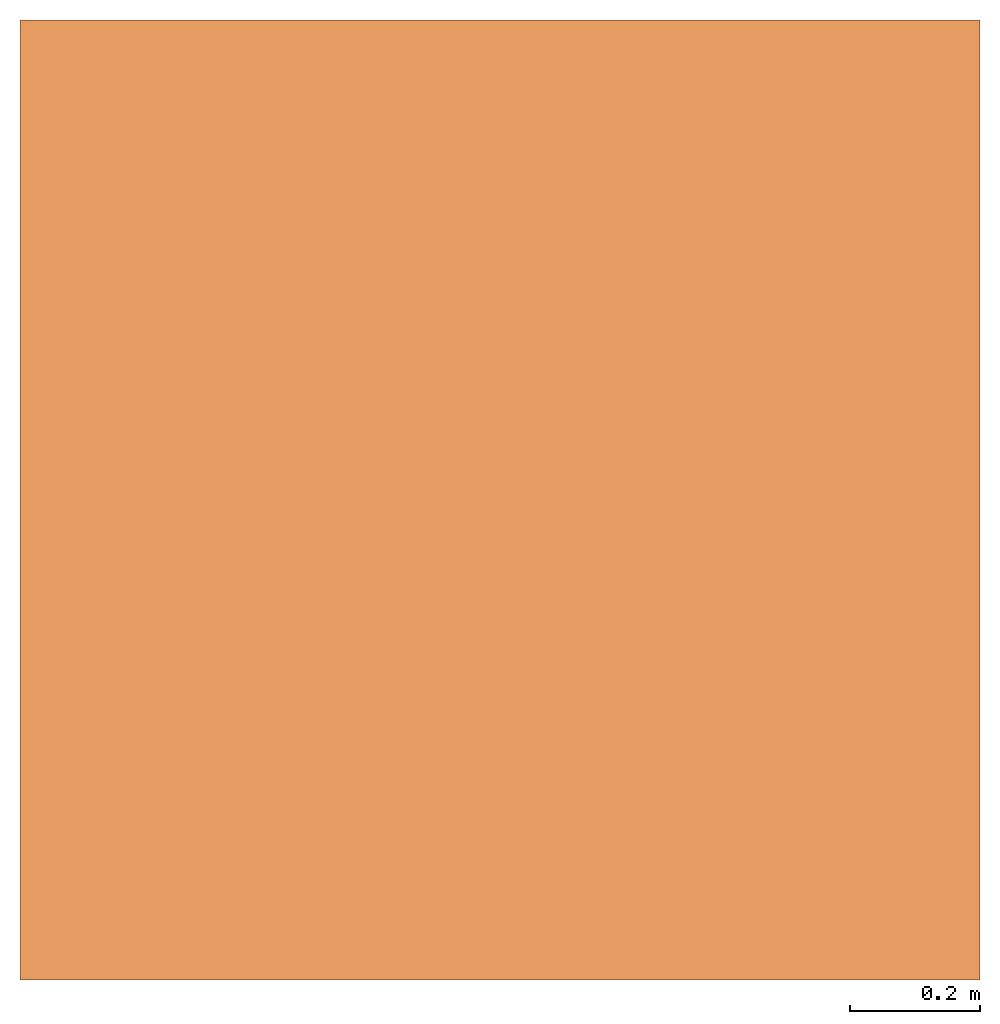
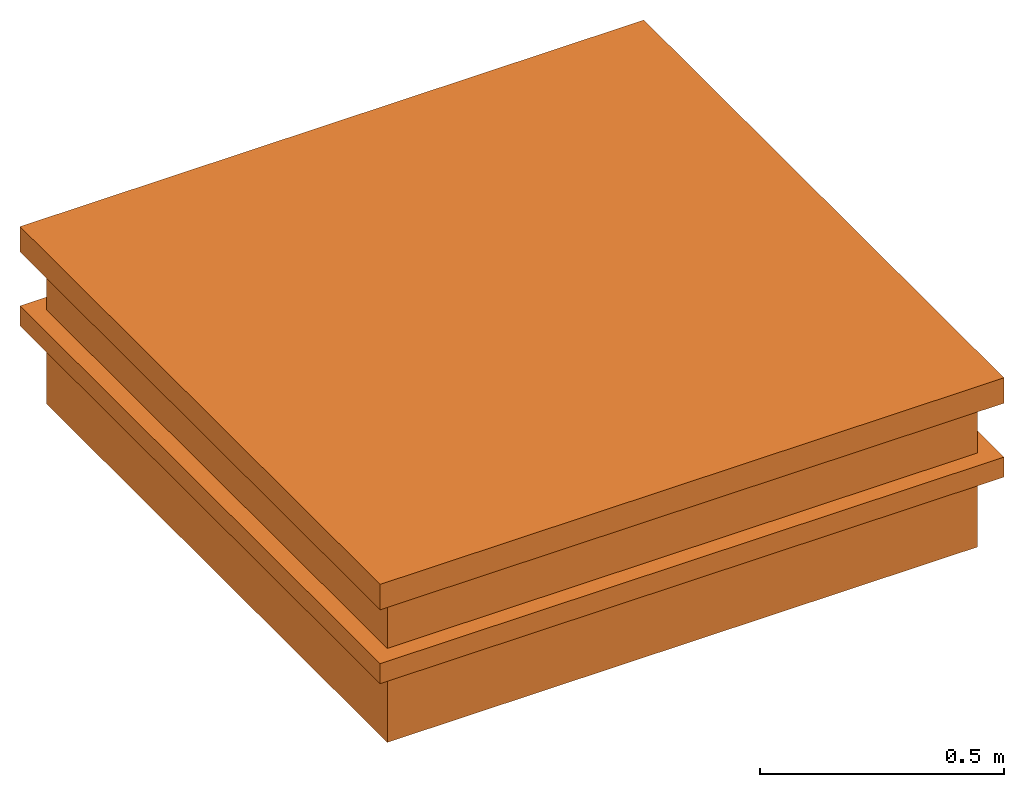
# One storey: 1 proxy.
"""IFC2X3 building model written with IfcOpenShell, lengths in metres."""

from ifc_helpers import new_model, entity, si_unit, converted_unit, derived_unit, direction, frame, origin, place, context, subcontext, project, spatial, faceted_brep, source, transform, mapped, material, material_list, type_object, type_shapes, element, save


model = new_model("IFC2X3")

# Units and contexts
model_context = context("Model", 3, precision=1e-05, world=origin(), true_north=direction((6.12303176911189e-17, 1.0)))
body_context = subcontext(model_context, "Body", "Model", "MODEL_VIEW")
ifc_project = project(units=[si_unit("LENGTHUNIT", "METRE"), si_unit("AREAUNIT", "SQUARE_METRE"), si_unit("VOLUMEUNIT", "CUBIC_METRE"), converted_unit("PLANEANGLEUNIT", "DEGREE", entity("IfcRatioMeasure", 0.0174532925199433), si_unit("PLANEANGLEUNIT", "RADIAN"), dimensions=[0, 0, 0, 0, 0, 0, 0]), si_unit("MASSUNIT", "GRAM", prefix="KILO"), derived_unit("MASSDENSITYUNIT", [(si_unit("MASSUNIT", "GRAM", prefix="KILO"), 1), (si_unit("LENGTHUNIT", "METRE"), -3)]), derived_unit("MOMENTOFINERTIAUNIT", [(si_unit("LENGTHUNIT", "METRE"), 4)]), si_unit("TIMEUNIT", "SECOND"), si_unit("FREQUENCYUNIT", "HERTZ"), si_unit("THERMODYNAMICTEMPERATUREUNIT", "DEGREE_CELSIUS"), derived_unit("THERMALTRANSMITTANCEUNIT", [(si_unit("MASSUNIT", "GRAM", prefix="KILO"), 1), (si_unit("THERMODYNAMICTEMPERATUREUNIT", "KELVIN"), -1), (si_unit("TIMEUNIT", "SECOND"), -3)]), derived_unit("VOLUMETRICFLOWRATEUNIT", [(si_unit("LENGTHUNIT", "METRE"), 3), (si_unit("TIMEUNIT", "SECOND"), -1)]), si_unit("ELECTRICCURRENTUNIT", "AMPERE"), si_unit("ELECTRICVOLTAGEUNIT", "VOLT"), si_unit("POWERUNIT", "WATT"), si_unit("FORCEUNIT", "NEWTON", prefix="KILO"), si_unit("ILLUMINANCEUNIT", "LUX"), si_unit("LUMINOUSFLUXUNIT", "LUMEN"), si_unit("LUMINOUSINTENSITYUNIT", "CANDELA"), derived_unit("USERDEFINED", [(si_unit("MASSUNIT", "GRAM", prefix="KILO"), -1), (si_unit("LENGTHUNIT", "METRE"), -2), (si_unit("TIMEUNIT", "SECOND"), 3), (si_unit("LUMINOUSFLUXUNIT", "LUMEN"), 1)]), derived_unit("LINEARVELOCITYUNIT", [(si_unit("LENGTHUNIT", "METRE"), 1), (si_unit("TIMEUNIT", "SECOND"), -1)]), si_unit("PRESSUREUNIT", "PASCAL"), derived_unit("USERDEFINED", [(si_unit("LENGTHUNIT", "METRE"), -2), (si_unit("MASSUNIT", "GRAM", prefix="KILO"), 1), (si_unit("TIMEUNIT", "SECOND"), -2)]), derived_unit("LINEARFORCEUNIT", [(si_unit("MASSUNIT", "GRAM", prefix="KILO"), 1), (si_unit("LENGTHUNIT", "METRE"), 1), (si_unit("TIMEUNIT", "SECOND"), -2), (si_unit("LENGTHUNIT", "METRE"), -1)]), derived_unit("PLANARFORCEUNIT", [(si_unit("MASSUNIT", "GRAM", prefix="KILO"), 1), (si_unit("LENGTHUNIT", "METRE"), 1), (si_unit("TIMEUNIT", "SECOND"), -2), (si_unit("LENGTHUNIT", "METRE"), -2)])], contexts=[model_context])

# Site, building, storey
site_placement = place(None, origin())
site = spatial("IfcSite", under=ifc_project, at=site_placement, Name="Default", CompositionType="ELEMENT")
building_placement = place(site_placement, origin())
building = spatial("IfcBuilding", under=site, at=building_placement, CompositionType="ELEMENT")
storey_placement = place(building_placement, frame((0.0, 0.0, 14.9533082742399)))
storey = spatial("IfcBuildingStorey", under=building, at=storey_placement, Name="Niveau Toiture", CompositionType="ELEMENT", Elevation=14.9533082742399)

# Proxy
ifc_material_1 = material(Name="Verre")
ifc_material_2 = material(Name="Métal - Bronze, Léger brossage")
ifc_material_list = material_list([ifc_material_1, ifc_material_2])
building_element_proxy_type = type_object("IfcBuildingElementProxyType", Name="Skydome 4:Skydome 110x120", PredefinedType="NOTDEFINED", material=ifc_material_list)
shared_shape = source(origin(), body_context, "Body", "Brep", [
    faceted_brep([(0.737700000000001, 0.73769999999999, 0.37), (0.737700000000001, 0.73769999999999, 0.433499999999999), (0.737700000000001, -0.737700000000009, 0.433499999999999), (0.737700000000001, -0.737700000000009, 0.37), (0.699599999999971, 0.699599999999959, 0.433499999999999), (0.699599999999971, 0.699599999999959, 0.408099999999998), (0.699599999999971, -0.699599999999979, 0.408099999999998), (0.699599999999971, -0.699599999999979, 0.433499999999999), (-0.737699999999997, -0.737700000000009, 0.433499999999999), (-0.737699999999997, -0.737700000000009, 0.37), (-0.699599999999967, -0.699599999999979, 0.408099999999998), (-0.699599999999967, -0.699599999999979, 0.433499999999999), (-0.737699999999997, 0.73769999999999, 0.433499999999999), (-0.737699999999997, 0.73769999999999, 0.37), (-0.699599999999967, 0.699599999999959, 0.408099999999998), (-0.699599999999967, 0.699599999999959, 0.433499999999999), (0.697700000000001, -0.697700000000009, 0.37), (0.697700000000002, 0.697699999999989, 0.37), (-0.697699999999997, 0.69769999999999, 0.37), (-0.697699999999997, -0.697700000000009, 0.37), (0.697700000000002, 0.697699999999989, 0.0), (0.697700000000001, -0.697700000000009, 0.0), (-0.697699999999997, -0.697700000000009, 0.0), (-0.697699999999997, 0.69769999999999, 0.0), (0.657700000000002, 0.65769999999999, 0.0), (-0.657699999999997, 0.65769999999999, 0.0), (-0.657699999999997, -0.657700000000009, 0.0), (0.657700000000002, -0.657700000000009, 0.0), (0.697700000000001, -0.697700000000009, 0.235234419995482), (0.697700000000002, 0.697699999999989, 0.235234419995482), (-0.697699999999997, -0.697700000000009, 0.235234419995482), (-0.697699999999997, 0.69769999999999, 0.235234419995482), (0.657700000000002, -0.657700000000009, 0.408099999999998), (0.657700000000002, 0.65769999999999, 0.408099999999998), (-0.657699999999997, -0.657700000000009, 0.408099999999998), (-0.657699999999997, 0.65769999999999, 0.408099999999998), (0.737700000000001, 0.73769999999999, 0.235234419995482), (-0.737699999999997, 0.73769999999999, 0.235234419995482), (-0.737699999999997, -0.737700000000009, 0.235234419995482), (0.737700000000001, -0.737700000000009, 0.235234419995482), (0.737700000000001, 0.73769999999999, 0.185234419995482), (0.737700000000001, -0.737700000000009, 0.185234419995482), (-0.737699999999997, -0.737700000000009, 0.185234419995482), (-0.737699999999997, 0.73769999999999, 0.185234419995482), (0.697700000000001, -0.697700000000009, 0.185234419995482), (0.697700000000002, 0.697699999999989, 0.185234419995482), (-0.697699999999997, 0.69769999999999, 0.185234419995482), (-0.697699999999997, -0.697700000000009, 0.185234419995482)], [[[0, 1, 2, 3]], [[4, 5, 6, 7]], [[3, 2, 8, 9]], [[7, 6, 10, 11]], [[9, 8, 12, 13]], [[11, 10, 14, 15]], [[2, 1, 12, 8], [4, 7, 11, 15]], [[1, 0, 13, 12]], [[0, 3, 9, 13], [16, 17, 18, 19]], [[5, 4, 15, 14]], [[20, 21, 22, 23], [24, 25, 26, 27]], [[16, 28, 29, 17]], [[28, 16, 19, 30]], [[30, 19, 18, 31]], [[31, 18, 17, 29]], [[24, 27, 32, 33]], [[32, 27, 26, 34]], [[34, 26, 25, 35]], [[35, 25, 24, 33]], [[36, 37, 38, 39], [29, 28, 30, 31]], [[40, 41, 42, 43], [44, 45, 46, 47]], [[36, 39, 41, 40]], [[39, 38, 42, 41]], [[38, 37, 43, 42]], [[37, 36, 40, 43]], [[33, 32, 34, 35], [6, 5, 14, 10]], [[20, 23, 46, 45]], [[23, 22, 47, 46]], [[22, 21, 44, 47]], [[21, 20, 45, 44]]], outer=[[True], [True], [True], [True], [True], [True], [True, False], [True], [True, False], [True], [True, False], [True], [True], [True], [True], [True], [True], [True], [True], [True, False], [True, False], [True], [True], [True], [True], [False, True], [True], [True], [True], [True]]),
    faceted_brep([(0.699599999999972, 0.699599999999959, 0.408099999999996), (0.699599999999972, -0.699599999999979, 0.408099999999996), (-0.699599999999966, -0.699599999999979, 0.4081), (-0.699599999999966, 0.699599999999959, 0.4081), (0.699599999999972, 0.699599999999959, 0.43349999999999), (-0.699599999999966, 0.699599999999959, 0.433499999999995), (-0.699599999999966, -0.699599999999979, 0.433499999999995), (0.699599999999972, -0.699599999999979, 0.43349999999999)], [[[0, 1, 2, 3]], [[4, 5, 6, 7]], [[5, 4, 0, 3]], [[6, 5, 3, 2]], [[7, 6, 2, 1]], [[4, 7, 1, 0]]]),
])
type_shapes(building_element_proxy_type, [shared_shape])
proxy_placement = place(storey_placement, frame((-15.1370120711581, 5.31747702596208, -4.10000000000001)))
element("IfcBuildingElementProxy", 1, at=proxy_placement, inside=storey, type_object=building_element_proxy_type, material=ifc_material_1, Name="Skydome 4:Skydome 110x120", ObjectType="Skydome 4:Skydome 110x120", context=body_context, shape_type="MappedRepresentation", body=[
    mapped(shared_shape, transform((0.0, 0.0, 0.0), scale=1.0)),
])

save(model, "model.ifc")
